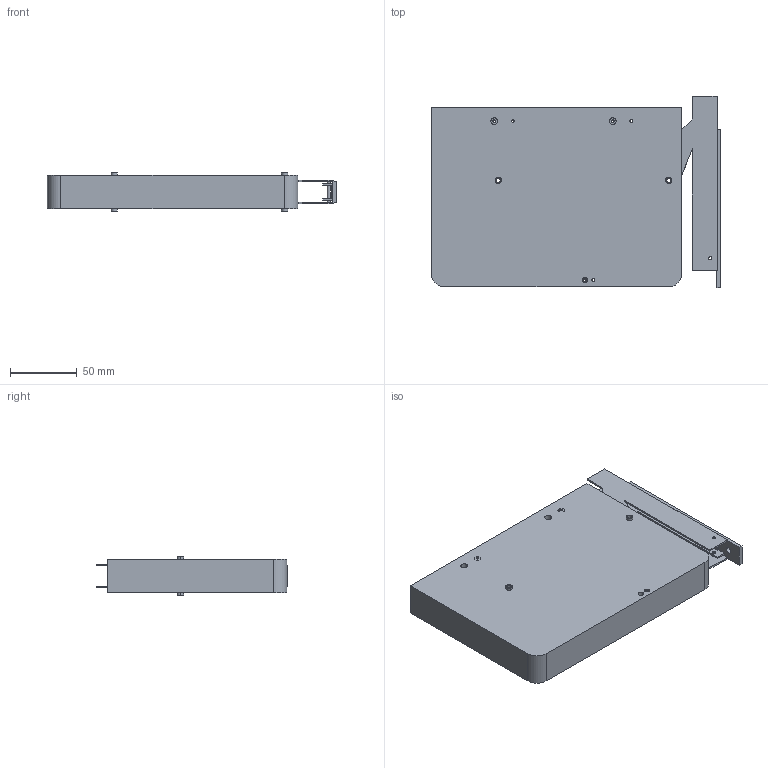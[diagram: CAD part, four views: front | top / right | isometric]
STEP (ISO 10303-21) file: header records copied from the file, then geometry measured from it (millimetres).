
FILE_DESCRIPTION (( 'STEP AP203' ), '1' );
FILE_NAME ('SF00AH02A.STEP', '2020-02-12T07:24:33', ( 'Windows 蚚誧' ), ( '' ), 'SwSTEP 2.0', 'SolidWorks 2012', '' );
FILE_SCHEMA (( 'CONFIG_CONTROL_DESIGN' ));
Length unit declared in the file: millimetre
Products named in the file (1): SF00AH02A
Bounding box: 217.2 x 143.45 x 28.6 mm (x, y, z)
Volume: 644576.4 mm3; surface area: 87541.7 mm2
Topology: 1 solids, 1 shells, 127 faces, 336 edges, 224 vertices
Faces by surface type: plane 65, cylinder 62
Entity records: 4123 total; most frequent: DIRECTION 716, CARTESIAN_POINT 688, ORIENTED_EDGE 672, EDGE_CURVE 336, AXIS2_PLACEMENT_3D 252, VERTEX_POINT 224, LINE 212, VECTOR 212
